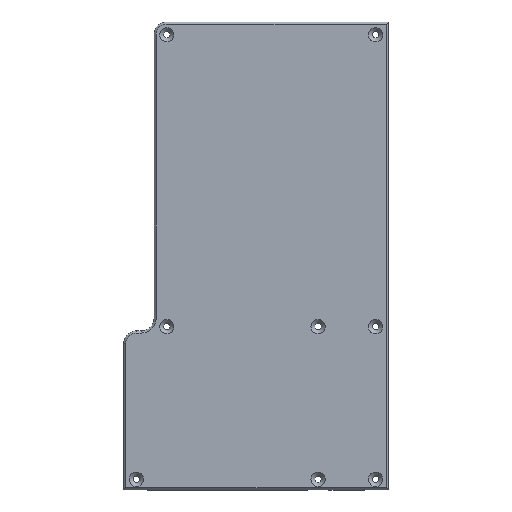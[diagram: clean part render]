
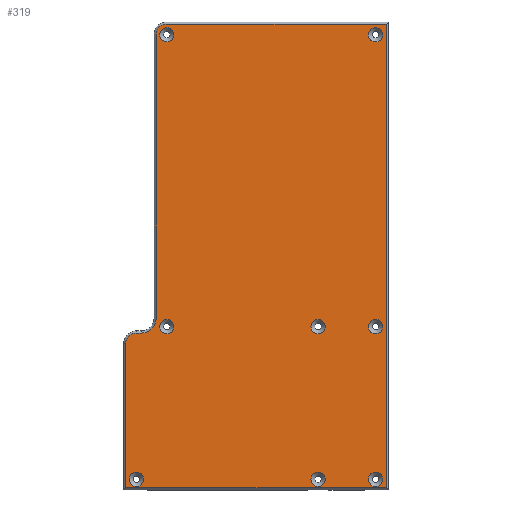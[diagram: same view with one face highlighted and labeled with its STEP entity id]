
A CAD part, top view. The second image highlights one B-rep face of the part: STEP entity #319.
In plain terms, the highlighted planar face has unit normal (0, 0, 1).
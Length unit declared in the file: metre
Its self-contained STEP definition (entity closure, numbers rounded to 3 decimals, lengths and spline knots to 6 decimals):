
#319 = ADVANCED_FACE( '', ( #709, #710, #711, #712, #713, #714, #715, #716, #717 ), #718, .T. );
#709 = FACE_OUTER_BOUND( '', #1303, .T. );
#710 = FACE_BOUND( '', #1304, .T. );
#711 = FACE_BOUND( '', #1305, .T. );
#712 = FACE_BOUND( '', #1306, .T. );
#713 = FACE_BOUND( '', #1307, .T. );
#714 = FACE_BOUND( '', #1308, .T. );
#715 = FACE_BOUND( '', #1309, .T. );
#716 = FACE_BOUND( '', #1310, .T. );
#717 = FACE_BOUND( '', #1311, .T. );
#718 = PLANE( '', #1312 );
#1303 = EDGE_LOOP( '', ( #2263, #2264, #2265, #2266, #2267, #2268, #2269, #2270, #2271 ) );
#1304 = EDGE_LOOP( '', ( #2272 ) );
#1305 = EDGE_LOOP( '', ( #2273 ) );
#1306 = EDGE_LOOP( '', ( #2274 ) );
#1307 = EDGE_LOOP( '', ( #2275 ) );
#1308 = EDGE_LOOP( '', ( #2276 ) );
#1309 = EDGE_LOOP( '', ( #2277 ) );
#1310 = EDGE_LOOP( '', ( #2278 ) );
#1311 = EDGE_LOOP( '', ( #2279 ) );
#1312 = AXIS2_PLACEMENT_3D( '', #2280, #2281, #2282 );
#2263 = ORIENTED_EDGE( '', *, *, #3199, .T. );
#2264 = ORIENTED_EDGE( '', *, *, #3252, .T. );
#2265 = ORIENTED_EDGE( '', *, *, #3253, .T. );
#2266 = ORIENTED_EDGE( '', *, *, #3254, .T. );
#2267 = ORIENTED_EDGE( '', *, *, #3255, .T. );
#2268 = ORIENTED_EDGE( '', *, *, #3256, .T. );
#2269 = ORIENTED_EDGE( '', *, *, #3257, .T. );
#2270 = ORIENTED_EDGE( '', *, *, #3044, .T. );
#2271 = ORIENTED_EDGE( '', *, *, #2896, .T. );
#2272 = ORIENTED_EDGE( '', *, *, #3258, .T. );
#2273 = ORIENTED_EDGE( '', *, *, #3259, .T. );
#2274 = ORIENTED_EDGE( '', *, *, #3260, .T. );
#2275 = ORIENTED_EDGE( '', *, *, #3261, .T. );
#2276 = ORIENTED_EDGE( '', *, *, #3262, .T. );
#2277 = ORIENTED_EDGE( '', *, *, #3181, .T. );
#2278 = ORIENTED_EDGE( '', *, *, #3102, .T. );
#2279 = ORIENTED_EDGE( '', *, *, #3176, .T. );
#2280 = CARTESIAN_POINT( '', ( 0.003756, 0.019541, 0.401 ) );
#2281 = DIRECTION( '', ( 0., 0., 1. ) );
#2282 = DIRECTION( '', ( 1., 0., 0. ) );
#2896 = EDGE_CURVE( '', #3423, #3428, #3430, .T. );
#3044 = EDGE_CURVE( '', #3686, #3423, #3690, .T. );
#3102 = EDGE_CURVE( '', #3785, #3785, #3786, .F. );
#3176 = EDGE_CURVE( '', #3896, #3896, #3897, .F. );
#3181 = EDGE_CURVE( '', #3902, #3902, #3903, .F. );
#3199 = EDGE_CURVE( '', #3428, #3925, #3927, .T. );
#3252 = EDGE_CURVE( '', #3925, #3997, #3998, .T. );
#3253 = EDGE_CURVE( '', #3997, #3999, #4000, .T. );
#3254 = EDGE_CURVE( '', #3999, #4001, #4002, .T. );
#3255 = EDGE_CURVE( '', #4001, #4003, #4004, .T. );
#3256 = EDGE_CURVE( '', #4003, #4005, #4006, .T. );
#3257 = EDGE_CURVE( '', #4005, #3686, #4007, .F. );
#3258 = EDGE_CURVE( '', #4008, #4008, #4009, .F. );
#3259 = EDGE_CURVE( '', #4010, #4010, #4011, .F. );
#3260 = EDGE_CURVE( '', #4012, #4012, #4013, .F. );
#3261 = EDGE_CURVE( '', #4014, #4014, #4015, .F. );
#3262 = EDGE_CURVE( '', #4016, #4016, #4017, .F. );
#3423 = VERTEX_POINT( '', #4211 );
#3428 = VERTEX_POINT( '', #4217 );
#3430 = CIRCLE( '', #4220, 0.005 );
#3686 = VERTEX_POINT( '', #4937 );
#3690 = LINE( '', #4943, #4944 );
#3785 = VERTEX_POINT( '', #5269 );
#3786 = CIRCLE( '', #5270, 0.00335 );
#3896 = VERTEX_POINT( '', #5541 );
#3897 = CIRCLE( '', #5542, 0.00335 );
#3902 = VERTEX_POINT( '', #5547 );
#3903 = CIRCLE( '', #5548, 0.00335 );
#3925 = VERTEX_POINT( '', #5585 );
#3927 = LINE( '', #5588, #5589 );
#3997 = VERTEX_POINT( '', #5798 );
#3998 = LINE( '', #5799, #5800 );
#3999 = VERTEX_POINT( '', #5801 );
#4000 = LINE( '', #5802, #5803 );
#4001 = VERTEX_POINT( '', #5804 );
#4002 = LINE( '', #5805, #5806 );
#4003 = VERTEX_POINT( '', #5807 );
#4004 = CIRCLE( '', #5808, 0.005 );
#4005 = VERTEX_POINT( '', #5809 );
#4006 = LINE( '', #5810, #5811 );
#4007 = CIRCLE( '', #5812, 0.007 );
#4008 = VERTEX_POINT( '', #5813 );
#4009 = CIRCLE( '', #5814, 0.00335 );
#4010 = VERTEX_POINT( '', #5815 );
#4011 = CIRCLE( '', #5816, 0.00335 );
#4012 = VERTEX_POINT( '', #5817 );
#4013 = CIRCLE( '', #5818, 0.00335 );
#4014 = VERTEX_POINT( '', #5819 );
#4015 = CIRCLE( '', #5820, 0.00335 );
#4016 = VERTEX_POINT( '', #5821 );
#4017 = CIRCLE( '', #5822, 0.00335 );
#4211 = CARTESIAN_POINT( '', ( -0.052369, -0.027528, 0.401 ) );
#4217 = CARTESIAN_POINT( '', ( -0.057369, -0.032528, 0.401 ) );
#4220 = AXIS2_PLACEMENT_3D( '', #6260, #6261, #6262 );
#4937 = CARTESIAN_POINT( '', ( -0.050119, -0.027528, 0.401 ) );
#4943 = CARTESIAN_POINT( '', ( 0.003756, -0.027528, 0.401 ) );
#4944 = VECTOR( '', #6415, 1. );
#5269 = CARTESIAN_POINT( '', ( 0.059881, 0.109122, 0.401 ) );
#5270 = AXIS2_PLACEMENT_3D( '', #6480, #6481, #6482 );
#5541 = CARTESIAN_POINT( '', ( -0.038119, 0.109122, 0.401 ) );
#5542 = AXIS2_PLACEMENT_3D( '', #6547, #6548, #6549 );
#5547 = CARTESIAN_POINT( '', ( 0.059881, -0.027878, 0.401 ) );
#5548 = AXIS2_PLACEMENT_3D( '', #6553, #6554, #6555 );
#5585 = CARTESIAN_POINT( '', ( -0.057369, -0.100208, 0.401 ) );
#5588 = CARTESIAN_POINT( '', ( -0.057369, 0.019541, 0.401 ) );
#5589 = VECTOR( '', #6569, 1. );
#5798 = CARTESIAN_POINT( '', ( 0.064881, -0.100208, 0.401 ) );
#5799 = CARTESIAN_POINT( '', ( 0.003756, -0.100208, 0.401 ) );
#5800 = VECTOR( '', #6609, 1. );
#5801 = CARTESIAN_POINT( '', ( 0.064881, 0.117472, 0.401 ) );
#5802 = CARTESIAN_POINT( '', ( 0.064881, 0.118472, 0.401 ) );
#5803 = VECTOR( '', #6610, 1. );
#5804 = CARTESIAN_POINT( '', ( -0.038119, 0.117472, 0.401 ) );
#5805 = CARTESIAN_POINT( '', ( 0.003756, 0.117472, 0.401 ) );
#5806 = VECTOR( '', #6611, 1. );
#5807 = CARTESIAN_POINT( '', ( -0.043119, 0.112472, 0.401 ) );
#5808 = AXIS2_PLACEMENT_3D( '', #6612, #6613, #6614 );
#5809 = CARTESIAN_POINT( '', ( -0.043119, -0.020528, 0.401 ) );
#5810 = CARTESIAN_POINT( '', ( -0.043119, 0.019541, 0.401 ) );
#5811 = VECTOR( '', #6615, 1. );
#5812 = AXIS2_PLACEMENT_3D( '', #6616, #6617, #6618 );
#5813 = CARTESIAN_POINT( '', ( 0.032881, -0.099558, 0.401 ) );
#5814 = AXIS2_PLACEMENT_3D( '', #6619, #6620, #6621 );
#5815 = CARTESIAN_POINT( '', ( 0.059881, -0.099558, 0.401 ) );
#5816 = AXIS2_PLACEMENT_3D( '', #6622, #6623, #6624 );
#5817 = CARTESIAN_POINT( '', ( 0.032881, -0.027878, 0.401 ) );
#5818 = AXIS2_PLACEMENT_3D( '', #6625, #6626, #6627 );
#5819 = CARTESIAN_POINT( '', ( -0.052369, -0.099558, 0.401 ) );
#5820 = AXIS2_PLACEMENT_3D( '', #6628, #6629, #6630 );
#5821 = CARTESIAN_POINT( '', ( -0.038119, -0.027878, 0.401 ) );
#5822 = AXIS2_PLACEMENT_3D( '', #6631, #6632, #6633 );
#6260 = CARTESIAN_POINT( '', ( -0.052369, -0.032528, 0.401 ) );
#6261 = DIRECTION( '', ( 0., 0., 1. ) );
#6262 = DIRECTION( '', ( 0., -1., 0. ) );
#6415 = DIRECTION( '', ( -1., 0., 0. ) );
#6480 = CARTESIAN_POINT( '', ( 0.059881, 0.112472, 0.401 ) );
#6481 = DIRECTION( '', ( 0., 0., 1. ) );
#6482 = DIRECTION( '', ( 0., -1., 0. ) );
#6547 = CARTESIAN_POINT( '', ( -0.038119, 0.112472, 0.401 ) );
#6548 = DIRECTION( '', ( 0., 0., 1. ) );
#6549 = DIRECTION( '', ( 0., -1., 0. ) );
#6553 = CARTESIAN_POINT( '', ( 0.059881, -0.024528, 0.401 ) );
#6554 = DIRECTION( '', ( 0., 0., 1. ) );
#6555 = DIRECTION( '', ( 0., -1., 0. ) );
#6569 = DIRECTION( '', ( 0., -1., 0. ) );
#6609 = DIRECTION( '', ( 1., 0., 0. ) );
#6610 = DIRECTION( '', ( 0., 1., 0. ) );
#6611 = DIRECTION( '', ( -1., 0., 0. ) );
#6612 = CARTESIAN_POINT( '', ( -0.038119, 0.112472, 0.401 ) );
#6613 = DIRECTION( '', ( 0., 0., 1. ) );
#6614 = DIRECTION( '', ( 0., -1., 0. ) );
#6615 = DIRECTION( '', ( 0., -1., 0. ) );
#6616 = CARTESIAN_POINT( '', ( -0.050119, -0.020528, 0.401 ) );
#6617 = DIRECTION( '', ( 0., 0., 1. ) );
#6618 = DIRECTION( '', ( 0., -1., 0. ) );
#6619 = CARTESIAN_POINT( '', ( 0.032881, -0.096208, 0.401 ) );
#6620 = DIRECTION( '', ( 0., 0., 1. ) );
#6621 = DIRECTION( '', ( 0., -1., 0. ) );
#6622 = CARTESIAN_POINT( '', ( 0.059881, -0.096208, 0.401 ) );
#6623 = DIRECTION( '', ( 0., 0., 1. ) );
#6624 = DIRECTION( '', ( 0., -1., 0. ) );
#6625 = CARTESIAN_POINT( '', ( 0.032881, -0.024528, 0.401 ) );
#6626 = DIRECTION( '', ( 0., 0., 1. ) );
#6627 = DIRECTION( '', ( 0., -1., 0. ) );
#6628 = CARTESIAN_POINT( '', ( -0.052369, -0.096208, 0.401 ) );
#6629 = DIRECTION( '', ( 0., 0., 1. ) );
#6630 = DIRECTION( '', ( 0., -1., 0. ) );
#6631 = CARTESIAN_POINT( '', ( -0.038119, -0.024528, 0.401 ) );
#6632 = DIRECTION( '', ( 0., 0., 1. ) );
#6633 = DIRECTION( '', ( 0., -1., 0. ) );
